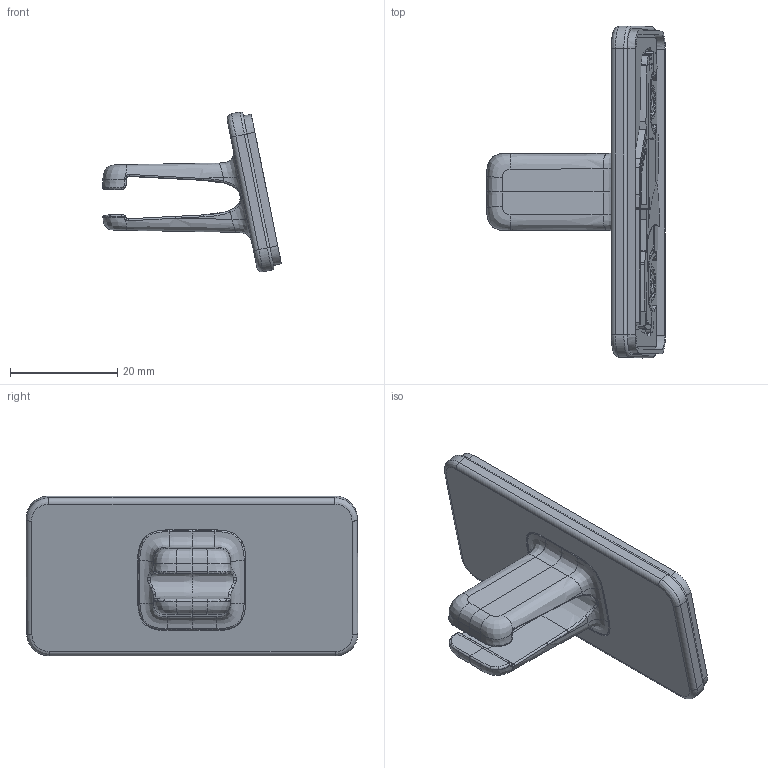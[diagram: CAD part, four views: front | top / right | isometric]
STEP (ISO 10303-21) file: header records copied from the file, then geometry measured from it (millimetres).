
FILE_DESCRIPTION(('HOOPS Exchange Step'),'2;1');
FILE_NAME('C:\Users\AaronGould\Desktop\SLATELETS\WRAP_SLATELET.stp','2025-07-21T16:03:01-04:00',('AaronGould'),('Unknown organisation'),'HOOPS Exchange 2024.2','HOOPS Exchange','Unknown authorisation');
FILE_SCHEMA( ('AP203_CONFIGURATION_CONTROLLED_3D_DESIGN_OF_MECHANICAL_PARTS_AND_ASSEMBLIES_MIM_LF') );
Length unit declared in the file: millimetre
Products named in the file (3): 0; root
Assembly tree (2 placements, depth 2):
  root
    0
    0
Bounding box: 33.34 x 61.89 x 29.82 mm (x, y, z)
Volume: 9013.8 mm3; surface area: 14466.6 mm2
Topology: 36 solids, 36 shells, 950 faces, 2415 edges, 1577 vertices
Faces by surface type: bspline 602, plane 329, offset 10, cylinder 9
Entity records: 57565 total; most frequent: CARTESIAN_POINT 39016, ORIENTED_EDGE 4828, EDGE_CURVE 2414, DIRECTION 1781, VERTEX_POINT 1577, B_SPLINE_CURVE_WITH_KNOTS 1339, VECTOR 1063, LINE 1061
